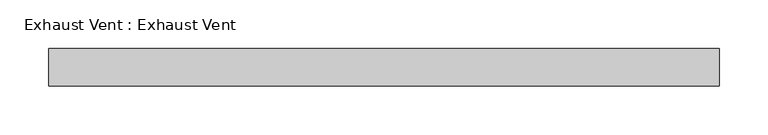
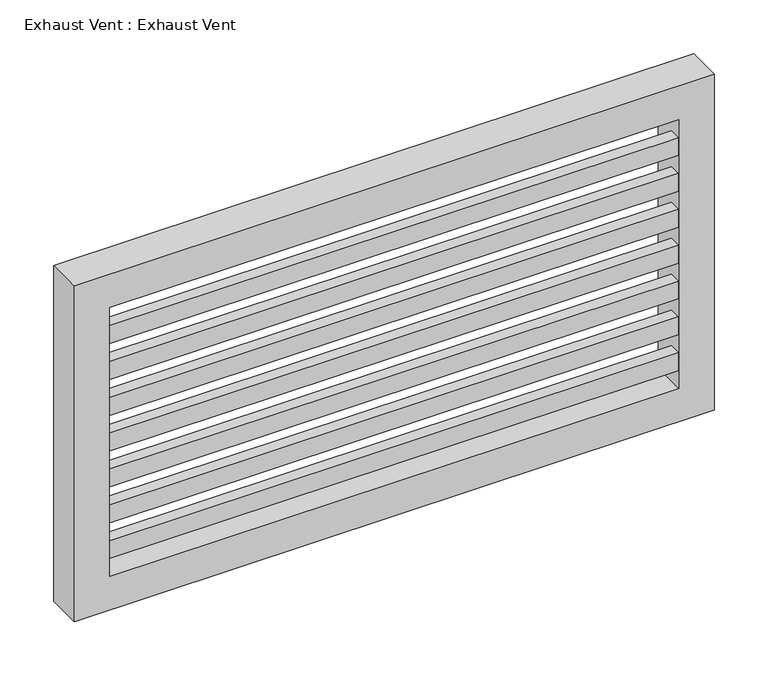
"""IFC4 building model written with IfcOpenShell, lengths in millimetres: proxy geometry, Exhaust Vent : Exhaust Vent."""

from ifc_helpers import new_model, si_unit, frame, origin, place, context, project, spatial, polyline, outline, extrude, source, transform, mapped, element, save


def exhaust_vent_exhaust_vent_a22d3620(model_context):
    return source(origin(), model_context, "Body", "SweptSolid", [
        extrude(outline(polyline([(2171.7, -351.0443955), (1790.7, -351.0443955), (1790.7, 334.7556045), (2171.7, 334.7556045), (2171.7, -351.0443955)]), holes=[polyline([(2133.6, 296.6556045), (1828.8, 296.6556045), (1828.8, -312.9443955), (2133.6, -312.9443955), (2133.6, 296.6556045)])]), frame((0.0, 177.8, 0.0), z_axis=(0.0, 1.0, 0.0), x_axis=(0.0, 0.0, 1.0)), (0.0, 0.0, 1.0), 38.1),
        extrude(outline(polyline([(296.6556045, 177.8), (-312.9443955, 177.8), (-312.9443955, 190.5), (296.6556045, 190.5), (296.6556045, 177.8)])), frame((0.0, 0.0, 2092.96), z_axis=(0.0, 0.0, 1.0), x_axis=(1.0, 0.0, 0.0)), (0.0, 0.0, 1.0), 20.32),
        extrude(outline(polyline([(296.6556045, 177.8), (-312.9443955, 177.8), (-312.9443955, 190.5), (296.6556045, 190.5), (296.6556045, 177.8)])), frame((0.0, 0.0, 2052.32), z_axis=(0.0, 0.0, 1.0), x_axis=(1.0, 0.0, 0.0)), (0.0, 0.0, 1.0), 20.32),
        extrude(outline(polyline([(296.6556045, 177.8), (-312.9443955, 177.8), (-312.9443955, 190.5), (296.6556045, 190.5), (296.6556045, 177.8)])), frame((0.0, 0.0, 2011.68), z_axis=(0.0, 0.0, 1.0), x_axis=(1.0, 0.0, 0.0)), (0.0, 0.0, 1.0), 20.32),
        extrude(outline(polyline([(296.6556045, 177.8), (-312.9443955, 177.8), (-312.9443955, 190.5), (296.6556045, 190.5), (296.6556045, 177.8)])), frame((0.0, 0.0, 1971.04), z_axis=(0.0, 0.0, 1.0), x_axis=(1.0, 0.0, 0.0)), (0.0, 0.0, 1.0), 20.32),
        extrude(outline(polyline([(296.6556045, 177.8), (-312.9443955, 177.8), (-312.9443955, 190.5), (296.6556045, 190.5), (296.6556045, 177.8)])), frame((0.0, 0.0, 1930.4), z_axis=(0.0, 0.0, 1.0), x_axis=(1.0, 0.0, 0.0)), (0.0, 0.0, 1.0), 20.32),
        extrude(outline(polyline([(296.6556045, 177.8), (-312.9443955, 177.8), (-312.9443955, 190.5), (296.6556045, 190.5), (296.6556045, 177.8)])), frame((0.0, 0.0, 1889.76), z_axis=(0.0, 0.0, 1.0), x_axis=(1.0, 0.0, 0.0)), (0.0, 0.0, 1.0), 20.32),
        extrude(outline(polyline([(296.6556045, 177.8), (-312.9443955, 177.8), (-312.9443955, 190.5), (296.6556045, 190.5), (296.6556045, 177.8)])), frame((0.0, 0.0, 1849.12), z_axis=(0.0, 0.0, 1.0), x_axis=(1.0, 0.0, 0.0)), (0.0, 0.0, 1.0), 20.32),
    ])


if __name__ == "__main__":
    model = new_model("IFC4")
    model_context = context("Model", 3, world=origin())
    ifc_project = project(units=[si_unit("LENGTHUNIT", "METRE", prefix="MILLI")], contexts=[model_context])
    site = spatial("IfcSite", under=ifc_project)
    building = spatial("IfcBuilding", under=site)
    placement = place(None, origin())
    exhaust_vent_exhaust_vent_shape = exhaust_vent_exhaust_vent_a22d3620(model_context)
    element("IfcBuildingElementProxy", 1, Name="Exhaust Vent : Exhaust Vent", ObjectType="Exhaust Vent : Exhaust Vent", at=placement, inside=building, context=model_context, shape_type="MappedRepresentation", body=[
        mapped(exhaust_vent_exhaust_vent_shape, transform((0.0, 0.0, 0.0), x_axis=(1.0, 0.0, 0.0), y_axis=(0.0, 1.0, 0.0), z_axis=(0.0, 0.0, 1.0))),
    ])
    save(model, "model.ifc")
